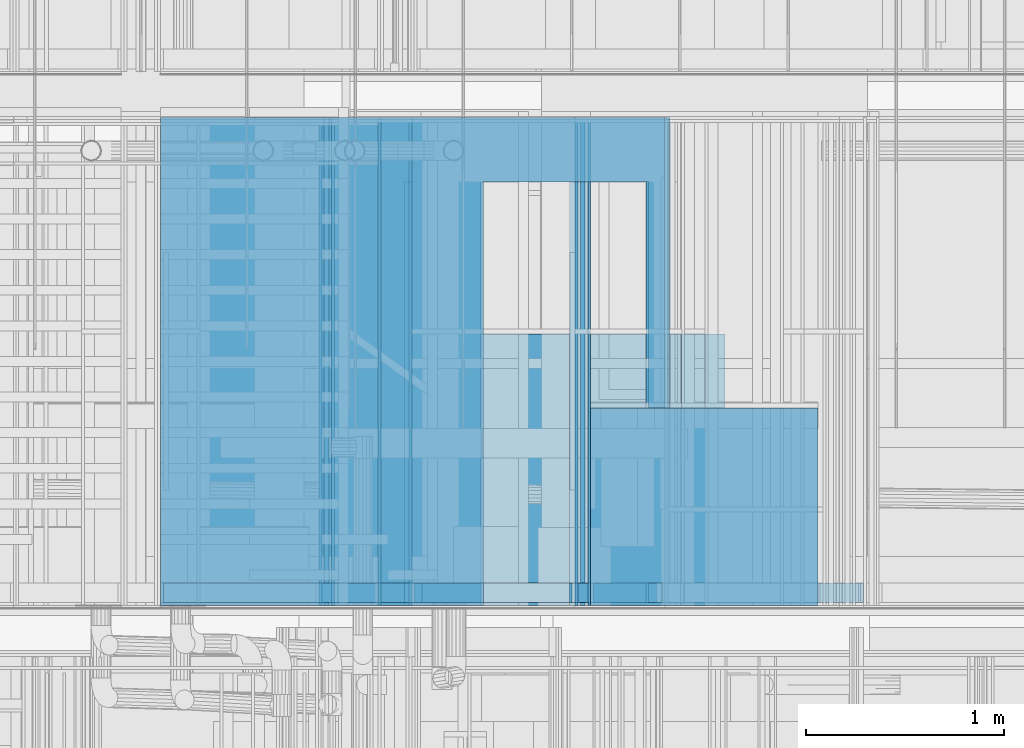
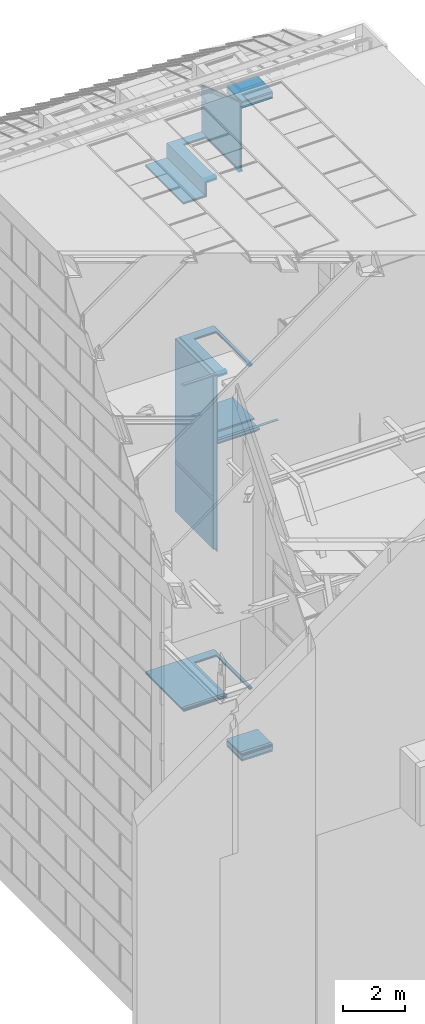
# One storey, part 158 of 583: 46 building element parts, 3 openings, 12 elements without a shape of their own.
"""IFC2X3 building model written with IfcOpenShell, lengths in metres."""

from ifc_helpers import new_model, entity, si_unit, converted_unit, derived_unit, money_unit, direction, frame, frame_2d, origin_with_axes, place, context, subcontext, project, spatial, polyline, rectangle, outline, extrude, clip, halfspace, material, type_object, element, aggregate, save


model = new_model("IFC2X3")

# Units and contexts
model_context = context("Model", 3, precision=1e-05, world=origin_with_axes(), true_north=direction((0.0, 1.0)))
body_context = subcontext(model_context, "Body", "Model", "MODEL_VIEW", scale=1.0)
ifc_project = project(units=[si_unit("LENGTHUNIT", "METRE"), si_unit("AREAUNIT", "SQUARE_METRE"), si_unit("VOLUMEUNIT", "CUBIC_METRE"), si_unit("ABSORBEDDOSEUNIT", "GRAY"), si_unit("AMOUNTOFSUBSTANCEUNIT", "MOLE"), si_unit("DOSEEQUIVALENTUNIT", "SIEVERT"), si_unit("ELECTRICCAPACITANCEUNIT", "FARAD"), si_unit("ELECTRICCHARGEUNIT", "COULOMB"), si_unit("ELECTRICCONDUCTANCEUNIT", "SIEMENS"), si_unit("ELECTRICCURRENTUNIT", "AMPERE"), si_unit("ELECTRICRESISTANCEUNIT", "OHM"), si_unit("ELECTRICVOLTAGEUNIT", "VOLT"), si_unit("ENERGYUNIT", "JOULE"), si_unit("FORCEUNIT", "NEWTON"), si_unit("FREQUENCYUNIT", "HERTZ"), si_unit("ILLUMINANCEUNIT", "LUX"), si_unit("INDUCTANCEUNIT", "HENRY"), si_unit("LUMINOUSFLUXUNIT", "LUMEN"), si_unit("LUMINOUSINTENSITYUNIT", "CANDELA"), si_unit("MAGNETICFLUXDENSITYUNIT", "TESLA"), si_unit("MAGNETICFLUXUNIT", "WEBER"), si_unit("MASSUNIT", "GRAM"), converted_unit("PLANEANGLEUNIT", "degree", entity("IfcReal", 0.0174532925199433), si_unit("PLANEANGLEUNIT", "RADIAN"), dimensions=[0, 0, 0, 0, 0, 0, 0]), si_unit("POWERUNIT", "WATT"), si_unit("PRESSUREUNIT", "PASCAL"), si_unit("RADIOACTIVITYUNIT", "BECQUEREL"), si_unit("SOLIDANGLEUNIT", "STERADIAN"), si_unit("THERMODYNAMICTEMPERATUREUNIT", "KELVIN"), si_unit("TIMEUNIT", "SECOND"), derived_unit("ACCELERATIONUNIT", [(si_unit("LENGTHUNIT", "METRE"), 1), (si_unit("TIMEUNIT", "SECOND"), -2)]), derived_unit("ANGULARVELOCITYUNIT", [(converted_unit("PLANEANGLEUNIT", "degree", entity("IfcReal", 0.0174532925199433), si_unit("PLANEANGLEUNIT", "RADIAN"), dimensions=[0, 0, 0, 0, 0, 0, 0]), 1), (si_unit("TIMEUNIT", "SECOND"), -1)]), derived_unit("CURVATUREUNIT", [(converted_unit("PLANEANGLEUNIT", "degree", entity("IfcReal", 0.0174532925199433), si_unit("PLANEANGLEUNIT", "RADIAN"), dimensions=[0, 0, 0, 0, 0, 0, 0]), 1), (si_unit("LENGTHUNIT", "METRE"), -1)]), derived_unit("DYNAMICVISCOSITYUNIT", [(si_unit("PRESSUREUNIT", "PASCAL"), 1), (si_unit("TIMEUNIT", "SECOND"), 1)]), derived_unit("HEATFLUXDENSITYUNIT", [(si_unit("POWERUNIT", "WATT"), 1), (si_unit("LENGTHUNIT", "METRE"), -2)]), derived_unit("HEATINGVALUEUNIT", [(si_unit("ENERGYUNIT", "JOULE"), 1), (si_unit("MASSUNIT", "GRAM"), -1)]), derived_unit("INTEGERCOUNTRATEUNIT", [(si_unit("TIMEUNIT", "SECOND"), -1)]), derived_unit("IONCONCENTRATIONUNIT", [(si_unit("MASSUNIT", "GRAM"), 1), (si_unit("VOLUMEUNIT", "CUBIC_METRE"), -1)]), derived_unit("ISOTHERMALMOISTURECAPACITYUNIT", [(si_unit("VOLUMEUNIT", "CUBIC_METRE"), 1), (si_unit("MASSUNIT", "GRAM"), -1)]), derived_unit("KINEMATICVISCOSITYUNIT", [(si_unit("AREAUNIT", "SQUARE_METRE"), 1), (si_unit("TIMEUNIT", "SECOND"), -1)]), derived_unit("LINEARFORCEUNIT", [(si_unit("FORCEUNIT", "NEWTON"), 1), (si_unit("LENGTHUNIT", "METRE"), -1)]), derived_unit("LINEARMOMENTUNIT", [(si_unit("FORCEUNIT", "NEWTON"), 1), (si_unit("LENGTHUNIT", "METRE"), -1)]), derived_unit("LINEARSTIFFNESSUNIT", [(si_unit("FORCEUNIT", "NEWTON"), 1), (si_unit("LENGTHUNIT", "METRE"), -1)]), derived_unit("LINEARVELOCITYUNIT", [(si_unit("LENGTHUNIT", "METRE"), 1), (si_unit("TIMEUNIT", "SECOND"), -1)]), derived_unit("LUMINOUSINTENSITYDISTRIBUTIONUNIT", [(si_unit("LUMINOUSINTENSITYUNIT", "CANDELA"), 1), (si_unit("LUMINOUSFLUXUNIT", "LUMEN"), -1)]), derived_unit("MASSDENSITYUNIT", [(si_unit("MASSUNIT", "GRAM"), 1), (si_unit("VOLUMEUNIT", "CUBIC_METRE"), -1)]), derived_unit("MASSFLOWRATEUNIT", [(si_unit("MASSUNIT", "GRAM"), 1), (si_unit("TIMEUNIT", "SECOND"), -1)]), derived_unit("MASSPERLENGTHUNIT", [(si_unit("MASSUNIT", "GRAM"), 1), (si_unit("LENGTHUNIT", "METRE"), -1)]), derived_unit("MODULUSOFELASTICITYUNIT", [(si_unit("FORCEUNIT", "NEWTON"), 1), (si_unit("AREAUNIT", "SQUARE_METRE"), -1)]), derived_unit("MODULUSOFLINEARSUBGRADEREACTIONUNIT", [(si_unit("FORCEUNIT", "NEWTON"), 1), (si_unit("LENGTHUNIT", "METRE"), -2)]), derived_unit("MODULUSOFROTATIONALSUBGRADEREACTIONUNIT", [(si_unit("FORCEUNIT", "NEWTON"), 1), (si_unit("LENGTHUNIT", "METRE"), 1)]), derived_unit("MODULUSOFSUBGRADEREACTIONUNIT", [(si_unit("FORCEUNIT", "NEWTON"), 1), (si_unit("VOLUMEUNIT", "CUBIC_METRE"), -1)]), derived_unit("MOISTUREDIFFUSIVITYUNIT", [(si_unit("VOLUMEUNIT", "CUBIC_METRE"), 1), (si_unit("TIMEUNIT", "SECOND"), -1)]), derived_unit("MOLECULARWEIGHTUNIT", [(si_unit("MASSUNIT", "GRAM"), 1), (si_unit("AMOUNTOFSUBSTANCEUNIT", "MOLE"), -1)]), derived_unit("PLANARFORCEUNIT", [(si_unit("FORCEUNIT", "NEWTON"), 1), (si_unit("LENGTHUNIT", "METRE"), -2)]), derived_unit("ROTATIONALFREQUENCYUNIT", [(si_unit("TIMEUNIT", "SECOND"), -1)]), derived_unit("ROTATIONALMASSUNIT", [(si_unit("MASSUNIT", "GRAM"), 1), (si_unit("LENGTHUNIT", "METRE"), 2)]), derived_unit("ROTATIONALSTIFFNESSUNIT", [(si_unit("FORCEUNIT", "NEWTON"), 1), (si_unit("LENGTHUNIT", "METRE"), 1), (converted_unit("PLANEANGLEUNIT", "degree", entity("IfcReal", 0.0174532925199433), si_unit("PLANEANGLEUNIT", "RADIAN"), dimensions=[0, 0, 0, 0, 0, 0, 0]), -1)]), derived_unit("SECTIONAREAINTEGRALUNIT", [(si_unit("LENGTHUNIT", "METRE"), 5)]), derived_unit("SECTIONMODULUSUNIT", [(si_unit("LENGTHUNIT", "METRE"), 3)]), derived_unit("SHEARMODULUSUNIT", [(si_unit("FORCEUNIT", "NEWTON"), 1), (si_unit("AREAUNIT", "SQUARE_METRE"), -1)]), derived_unit("SOUNDPOWERUNIT", [(si_unit("ENERGYUNIT", "JOULE"), 1), (si_unit("TIMEUNIT", "SECOND"), -1)]), derived_unit("SPECIFICHEATCAPACITYUNIT", [(si_unit("FORCEUNIT", "NEWTON"), 1), (si_unit("MASSUNIT", "GRAM"), -1), (si_unit("THERMODYNAMICTEMPERATUREUNIT", "KELVIN"), -1)]), derived_unit("TEMPERATUREGRADIENTUNIT", [(si_unit("THERMODYNAMICTEMPERATUREUNIT", "KELVIN"), 1), (si_unit("LENGTHUNIT", "METRE"), -1)]), derived_unit("THERMALADMITTANCEUNIT", [(si_unit("POWERUNIT", "WATT"), 1), (si_unit("AREAUNIT", "SQUARE_METRE"), -1), (si_unit("THERMODYNAMICTEMPERATUREUNIT", "KELVIN"), -1)]), derived_unit("THERMALCONDUCTANCEUNIT", [(si_unit("POWERUNIT", "WATT"), 1), (si_unit("LENGTHUNIT", "METRE"), -1), (si_unit("THERMODYNAMICTEMPERATUREUNIT", "KELVIN"), -1)]), derived_unit("THERMALEXPANSIONCOEFFICIENTUNIT", [(si_unit("THERMODYNAMICTEMPERATUREUNIT", "KELVIN"), -1)]), derived_unit("THERMALRESISTANCEUNIT", [(si_unit("AREAUNIT", "SQUARE_METRE"), 1), (si_unit("POWERUNIT", "WATT"), -1)]), derived_unit("THERMALTRANSMITTANCEUNIT", [(si_unit("POWERUNIT", "WATT"), 1), (si_unit("AREAUNIT", "SQUARE_METRE"), -1), (si_unit("THERMODYNAMICTEMPERATUREUNIT", "KELVIN"), -1)]), derived_unit("TORQUEUNIT", [(si_unit("FORCEUNIT", "NEWTON"), 1), (si_unit("LENGTHUNIT", "METRE"), 1)]), derived_unit("VAPORPERMEABILITYUNIT", [(si_unit("MASSUNIT", "GRAM"), 1), (si_unit("TIMEUNIT", "SECOND"), -1)]), derived_unit("VOLUMETRICFLOWRATEUNIT", [(si_unit("VOLUMEUNIT", "CUBIC_METRE"), 1), (si_unit("TIMEUNIT", "SECOND"), -1)]), derived_unit("WARPINGCONSTANTUNIT", [(si_unit("LENGTHUNIT", "METRE"), 6)]), derived_unit("WARPINGMOMENTUNIT", [(si_unit("FORCEUNIT", "NEWTON"), 1), (si_unit("LENGTHUNIT", "METRE"), 2)]), money_unit("GBP")], contexts=[model_context])

# Site, building, storey
site_placement = place(None, origin_with_axes())
site = spatial("IfcSite", under=ifc_project, at=site_placement, Name="Site", CompositionType="ELEMENT")
building_placement = place(site_placement, origin_with_axes())
building = spatial("IfcBuilding", under=site, at=building_placement, Name="Building01", CompositionType="ELEMENT")
storey_placement = place(building_placement, frame((0.0, 0.0, 20.78), z_axis=(0.0, 0.0, 1.0), x_axis=(1.0, 0.0, 0.0)))
storey = spatial("IfcBuildingStorey", under=building, at=storey_placement, Name="RL", CompositionType="ELEMENT", Elevation=20.78)

# Wall, building element parts
wall_type_1 = type_object("IfcWallType", Name="SHE_A-Walls_Type05b_Partition_80mm", PredefinedType="NOTDEFINED")
wall_1_placement = place(storey_placement, frame((9.672024, 14.98, 3.023), z_axis=(0.0, 1.0, 0.0), x_axis=(0.0, 0.0, 1.0)))
wall_1 = element("IfcWall", 1, at=wall_1_placement, inside=storey, type_object=wall_type_1, Name="5B", ObjectType="SHE_A-Walls_Type05b_Partition_80mm")
ifc_material_1 = material(Name="A_BSUK_Insulation")
placement_1 = place(wall_1_placement, origin_with_axes())
building_element_part_1 = element("IfcBuildingElementPart", 2, at=placement_1, material=ifc_material_1, Name="1", context=body_context, shape_type="Clipping", body=[
    clip(extrude(rectangle(XDim=2.653143, YDim=0.025, at=frame_2d((1.326572, 0.0125), x_axis=(-1.0, 0.0))), origin_with_axes(), (0.0, 0.0, 1.0), 2.468), halfspace(frame((2.399791, 0.0, 0.779739), z_axis=(-0.95105652, 0.0, -0.30901699), x_axis=(0.0, -1.0, 0.0)), True)),
])
ifc_material_2 = material(Name="A_BSUK_WallInternal_Finishes_Plasterboard")
building_element_part_2 = element("IfcBuildingElementPart", 3, at=placement_1, material=ifc_material_2, Name="3", context=body_context, shape_type="Clipping", body=[
    clip(extrude(outline(polyline([(2.653143, 0.053), (-0.053, 0.053), (-0.038, 0.038), (2.653143, 0.038), (2.653143, 0.053)])), origin_with_axes(), (0.0, 0.0, 1.0), 2.468), halfspace(frame((2.399791, 0.0, 0.779739), z_axis=(-0.95105652, 0.0, -0.30901699), x_axis=(0.0, -1.0, 0.0)), True)),
])
building_element_part_3 = element("IfcBuildingElementPart", 4, at=placement_1, material=ifc_material_2, Name="4", context=body_context, shape_type="Clipping", body=[
    clip(extrude(outline(polyline([(2.663658, -0.012), (0.012, -0.012), (0.027, -0.027), (2.663658, -0.027), (2.663658, -0.012)])), origin_with_axes(), (0.0, 0.0, 1.0), 2.468), halfspace(frame((2.409301, 0.0, 0.782829), z_axis=(-0.95105652, 0.0, -0.30901699), x_axis=(0.0, -1.0, 0.0)), True)),
])
aggregate(wall_1, [building_element_part_1, building_element_part_2, building_element_part_3])

# Wall, opening, building element parts
wall_2_placement = place(storey_placement, frame((7.550061, 14.98, -17.508), z_axis=(0.0, 1.0, 0.0), x_axis=(1.0, 0.0, 0.0)))
wall_2 = element("IfcWall", 5, at=wall_2_placement, inside=storey, type_object=wall_type_1, Name="5B", ObjectType="SHE_A-Walls_Type05b_Partition_80mm")
opening_1_placement = place(wall_2_placement, frame((1.632879, 0.052, 0.0), z_axis=(0.0, 0.0, 1.0), x_axis=(1.0, 0.0, 0.0)))
element("IfcOpeningElement", 6, at=opening_1_placement, cuts=wall_2, Name="Opening", ObjectType="Opening", context=body_context, shape_type="SweptSolid", body=[
    extrude(rectangle(XDim=2.142, YDim=0.834, at=frame_2d((-0.417, 1.071), x_axis=(0.0, -1.0))), frame((0.0, -3.925325, 0.0), z_axis=(0.0, 1.0, 0.0), x_axis=(-1.0, 0.0, 0.0)), (0.0, 0.0, 1.0), 7.850651),
])
placement_2 = place(wall_2_placement, origin_with_axes())
building_element_part_4 = element("IfcBuildingElementPart", 7, at=placement_2, material=ifc_material_1, Name="1", context=body_context, shape_type="SweptSolid", body=[
    extrude(rectangle(XDim=2.576879, YDim=0.025, at=frame_2d((1.288439, 0.0125), x_axis=(-1.0, 0.0))), origin_with_axes(), (0.0, 0.0, 1.0), 2.468),
])
ifc_material_3 = material(Name="A_BSUK_Walls_Timber")
building_element_part_5 = element("IfcBuildingElementPart", 8, at=placement_2, material=ifc_material_3, Name="2", context=body_context, shape_type="SweptSolid", body=[
    extrude(rectangle(XDim=2.534879, YDim=0.015, at=frame_2d((1.267439, -0.0355), x_axis=(-1.0, 0.0))), frame((0.0, 0.0, 0.015), z_axis=(0.0, 0.0, 1.0), x_axis=(1.0, 0.0, 0.0)), (0.0, 0.0, 1.0), 0.1),
])
building_element_part_6 = element("IfcBuildingElementPart", 9, at=placement_2, material=ifc_material_2, Name="3", context=body_context, shape_type="SweptSolid", body=[
    extrude(rectangle(XDim=2.549879, YDim=0.015, at=frame_2d((1.274939, -0.0205), x_axis=(-1.0, 0.0))), origin_with_axes(), (0.0, 0.0, 1.0), 2.468),
])
building_element_part_7 = element("IfcBuildingElementPart", 10, at=placement_2, material=ifc_material_2, Name="4", context=body_context, shape_type="SweptSolid", body=[
    extrude(rectangle(XDim=2.549879, YDim=0.015, at=frame_2d((1.274939, 0.0445), x_axis=(-1.0, 0.0))), origin_with_axes(), (0.0, 0.0, 1.0), 2.468),
])
building_element_part_8 = element("IfcBuildingElementPart", 11, at=placement_2, material=ifc_material_3, Name="5", context=body_context, shape_type="SweptSolid", body=[
    extrude(rectangle(XDim=2.519879, YDim=0.015, at=frame_2d((1.274939, 0.0595), x_axis=(-1.0, 0.0))), frame((0.0, 0.0, 0.015), z_axis=(0.0, 0.0, 1.0), x_axis=(1.0, 0.0, 0.0)), (0.0, 0.0, 1.0), 0.1),
])
aggregate(wall_2, [building_element_part_4, building_element_part_5, building_element_part_6, building_element_part_7, building_element_part_8])

wall_3_placement = place(storey_placement, frame((8.401915, 14.98, 3.023), z_axis=(0.0, 1.0, 0.0), x_axis=(1.0, 0.0, 0.0)))
wall_3 = element("IfcWall", 12, at=wall_3_placement, inside=storey, type_object=wall_type_1, Name="5B", ObjectType="SHE_A-Walls_Type05b_Partition_80mm")
opening_2_placement = place(wall_3_placement, frame((0.382109, 0.053, 0.0), z_axis=(0.0, 0.0, 1.0), x_axis=(1.0, 0.0, 0.0)))
element("IfcOpeningElement", 13, at=opening_2_placement, cuts=wall_3, Name="Opening", ObjectType="Opening", context=body_context, shape_type="SweptSolid", body=[
    extrude(rectangle(XDim=2.142, YDim=0.834, at=frame_2d((-0.417, 1.071), x_axis=(0.0, -1.0))), frame((0.0, -3.598852, 0.0), z_axis=(0.0, 1.0, 0.0), x_axis=(-1.0, 0.0, 0.0)), (0.0, 0.0, 1.0), 7.197703),
])
placement_3 = place(wall_3_placement, origin_with_axes())
building_element_part_9 = element("IfcBuildingElementPart", 14, at=placement_3, material=ifc_material_1, Name="1", context=body_context, shape_type="SweptSolid", body=[
    extrude(rectangle(XDim=1.295109, YDim=0.025, at=frame_2d((0.647555, 0.0125), x_axis=(-1.0, 0.0))), origin_with_axes(), (0.0, 0.0, 1.0), 2.468),
])
building_element_part_10 = element("IfcBuildingElementPart", 15, at=placement_3, material=ifc_material_3, Name="2", context=body_context, shape_type="SweptSolid", body=[
    extrude(outline(polyline([(1.338109, 0.068), (0.043, 0.068), (0.028, 0.053), (1.323109, 0.053), (1.338109, 0.068)])), frame((0.0, 0.0, 0.015), z_axis=(0.0, 0.0, 1.0), x_axis=(1.0, 0.0, 0.0)), (0.0, 0.0, 1.0), 0.1),
])
building_element_part_11 = element("IfcBuildingElementPart", 16, at=placement_3, material=ifc_material_2, Name="3", context=body_context, shape_type="SweptSolid", body=[
    extrude(outline(polyline([(1.323109, 0.053), (0.028, 0.053), (0.013, 0.038), (1.308109, 0.038), (1.323109, 0.053)])), origin_with_axes(), (0.0, 0.0, 1.0), 2.468),
])
building_element_part_12 = element("IfcBuildingElementPart", 17, at=placement_3, material=ifc_material_2, Name="4", context=body_context, shape_type="SweptSolid", body=[
    extrude(outline(polyline([(1.258109, -0.012), (-0.037, -0.012), (-0.052, -0.027), (1.243109, -0.027), (1.258109, -0.012)])), origin_with_axes(), (0.0, 0.0, 1.0), 2.468),
])
building_element_part_13 = element("IfcBuildingElementPart", 18, at=placement_3, material=ifc_material_3, Name="5", context=body_context, shape_type="SweptSolid", body=[
    extrude(outline(polyline([(1.243109, -0.027), (-0.052, -0.027), (-0.067, -0.042), (1.228109, -0.042), (1.243109, -0.027)])), frame((0.0, 0.0, 0.015), z_axis=(0.0, 0.0, 1.0), x_axis=(1.0, 0.0, 0.0)), (0.0, 0.0, 1.0), 0.1),
])
aggregate(wall_3, [building_element_part_9, building_element_part_10, building_element_part_11, building_element_part_12, building_element_part_13])

# Wall, building element parts
wall_4_placement = place(storey_placement, frame((8.401915, 14.98, 2.426821), z_axis=(0.0, 1.0, 0.0), x_axis=(0.0, 0.0, 1.0)))
wall_4 = element("IfcWall", 19, at=wall_4_placement, inside=storey, type_object=wall_type_1, Name="5B", ObjectType="SHE_A-Walls_Type05b_Partition_80mm")
placement_4 = place(wall_4_placement, origin_with_axes())
building_element_part_14 = element("IfcBuildingElementPart", 20, at=placement_4, material=ifc_material_1, Name="1", context=body_context, shape_type="SweptSolid", body=[
    extrude(outline(polyline([(0.596179, 0.0), (0.0, 0.0), (0.025, -0.025), (0.596179, -0.025), (0.596179, 0.0)])), origin_with_axes(), (0.0, 0.0, 1.0), 2.468),
])
building_element_part_15 = element("IfcBuildingElementPart", 21, at=placement_4, material=ifc_material_2, Name="3", context=body_context, shape_type="SweptSolid", body=[
    extrude(outline(polyline([(0.543179, 0.028), (-0.028, 0.028), (-0.013, 0.013), (0.558179, 0.013), (0.543179, 0.028)])), origin_with_axes(), (0.0, 0.0, 1.0), 2.468),
])
building_element_part_16 = element("IfcBuildingElementPart", 22, at=placement_4, material=ifc_material_2, Name="4", context=body_context, shape_type="SweptSolid", body=[
    extrude(outline(polyline([(0.608179, -0.037), (0.037, -0.037), (0.052, -0.052), (0.623179, -0.052), (0.608179, -0.037)])), origin_with_axes(), (0.0, 0.0, 1.0), 2.468),
])
aggregate(wall_4, [building_element_part_14, building_element_part_15, building_element_part_16])

wall_type_2 = type_object("IfcWallType", Name="SHE_A-Walls_Type06e_ExternalWallPenthouse_280mm", PredefinedType="NOTDEFINED")
wall_5_placement = place(storey_placement, frame((10.874915, 14.98, 5.635061), z_axis=(0.0, 1.0, 0.0), x_axis=(-1.0, 0.0, 0.0)))
wall_5 = element("IfcWall", 23, at=wall_5_placement, inside=storey, type_object=wall_type_2, Name="6E", ObjectType="SHE_A-Walls_Type06e_ExternalWallPenthouse_280mm")
placement_5 = place(wall_5_placement, origin_with_axes())
building_element_part_17 = element("IfcBuildingElementPart", 24, at=placement_5, material=ifc_material_1, Name="1", context=body_context, shape_type="SweptSolid", body=[
    extrude(rectangle(XDim=1.149951, YDim=0.14, at=frame_2d((0.574976, -0.07), x_axis=(-1.0, 0.0))), origin_with_axes(), (0.0, 0.0, 1.0), 1.0),
])
building_element_part_18 = element("IfcBuildingElementPart", 25, at=placement_5, material=ifc_material_1, Name="2", context=body_context, shape_type="SweptSolid", body=[
    extrude(rectangle(XDim=1.149951, YDim=0.04, at=frame_2d((0.574976, -0.185), x_axis=(-1.0, 0.0))), origin_with_axes(), (0.0, 0.0, 1.0), 1.0),
])
building_element_part_19 = element("IfcBuildingElementPart", 26, at=placement_5, material=ifc_material_3, Name="3", context=body_context, shape_type="SweptSolid", body=[
    extrude(rectangle(XDim=1.149951, YDim=0.015, at=frame_2d((0.574976, -0.2225), x_axis=(-1.0, 0.0))), frame((0.0, 0.0, 0.015), z_axis=(0.0, 0.0, 1.0), x_axis=(1.0, 0.0, 0.0)), (0.0, 0.0, 1.0), 0.1),
])
building_element_part_20 = element("IfcBuildingElementPart", 27, at=placement_5, material=ifc_material_2, Name="4", context=body_context, shape_type="SweptSolid", body=[
    extrude(rectangle(XDim=1.149951, YDim=0.01, at=frame_2d((0.574976, -0.21), x_axis=(-1.0, 0.0))), origin_with_axes(), (0.0, 0.0, 1.0), 1.0),
])
building_element_part_21 = element("IfcBuildingElementPart", 28, at=placement_5, material=ifc_material_3, Name="5", context=body_context, shape_type="SweptSolid", body=[
    extrude(rectangle(XDim=1.149951, YDim=0.01, at=frame_2d((0.574976, 0.005), x_axis=(-1.0, 0.0))), origin_with_axes(), (0.0, 0.0, 1.0), 1.0),
])
ifc_material_4 = material(Name="A_BSUK_WallInternal_Finishes_Metal")
building_element_part_22 = element("IfcBuildingElementPart", 29, at=placement_5, material=ifc_material_4, Name="6", context=body_context, shape_type="SweptSolid", body=[
    extrude(rectangle(XDim=1.149951, YDim=0.005, at=frame_2d((0.574976, 0.0625), x_axis=(-1.0, 0.0))), origin_with_axes(), (0.0, 0.0, 1.0), 1.0),
])
aggregate(wall_5, [building_element_part_17, building_element_part_18, building_element_part_19, building_element_part_20, building_element_part_21, building_element_part_22])

wall_6_placement = place(storey_placement, frame((10.874915, 14.98, -20.215061), z_axis=(0.0, 1.0, 0.0), x_axis=(1.0, 0.0, 0.0)))
wall_6 = element("IfcWall", 30, at=wall_6_placement, inside=storey, type_object=wall_type_2, Name="6E", ObjectType="SHE_A-Walls_Type06e_ExternalWallPenthouse_280mm")
placement_6 = place(wall_6_placement, origin_with_axes())
building_element_part_23 = element("IfcBuildingElementPart", 31, at=placement_6, material=ifc_material_1, Name="1", context=body_context, shape_type="SweptSolid", body=[
    extrude(rectangle(XDim=1.149951, YDim=0.14, at=frame_2d((-0.574976, -0.07), x_axis=(1.0, 0.0))), origin_with_axes(), (0.0, 0.0, 1.0), 1.0),
])
building_element_part_24 = element("IfcBuildingElementPart", 32, at=placement_6, material=ifc_material_1, Name="2", context=body_context, shape_type="SweptSolid", body=[
    extrude(rectangle(XDim=1.149951, YDim=0.04, at=frame_2d((-0.574976, -0.185), x_axis=(1.0, 0.0))), origin_with_axes(), (0.0, 0.0, 1.0), 1.0),
])
building_element_part_25 = element("IfcBuildingElementPart", 33, at=placement_6, material=ifc_material_3, Name="3", context=body_context, shape_type="SweptSolid", body=[
    extrude(rectangle(XDim=1.149951, YDim=0.015, at=frame_2d((-0.574976, -0.2225), x_axis=(1.0, 0.0))), frame((0.0, 0.0, 0.015), z_axis=(0.0, 0.0, 1.0), x_axis=(1.0, 0.0, 0.0)), (0.0, 0.0, 1.0), 0.1),
])
building_element_part_26 = element("IfcBuildingElementPart", 34, at=placement_6, material=ifc_material_2, Name="4", context=body_context, shape_type="SweptSolid", body=[
    extrude(rectangle(XDim=1.149951, YDim=0.01, at=frame_2d((-0.574976, -0.21), x_axis=(1.0, 0.0))), origin_with_axes(), (0.0, 0.0, 1.0), 1.0),
])
building_element_part_27 = element("IfcBuildingElementPart", 35, at=placement_6, material=ifc_material_3, Name="5", context=body_context, shape_type="SweptSolid", body=[
    extrude(rectangle(XDim=1.149951, YDim=0.01, at=frame_2d((-0.574976, 0.005), x_axis=(1.0, 0.0))), origin_with_axes(), (0.0, 0.0, 1.0), 1.0),
])
building_element_part_28 = element("IfcBuildingElementPart", 36, at=placement_6, material=ifc_material_4, Name="6", context=body_context, shape_type="SweptSolid", body=[
    extrude(rectangle(XDim=1.149951, YDim=0.005, at=frame_2d((-0.574976, 0.0625), x_axis=(1.0, 0.0))), origin_with_axes(), (0.0, 0.0, 1.0), 1.0),
])
aggregate(wall_6, [building_element_part_23, building_element_part_24, building_element_part_25, building_element_part_26, building_element_part_27, building_element_part_28])

wall_7_placement = place(storey_placement, frame((7.549915, 14.98, 2.426821), z_axis=(0.0, 1.0, 0.0), x_axis=(1.0, 0.0, 0.0)))
wall_7 = element("IfcWall", 37, at=wall_7_placement, inside=storey, type_object=wall_type_1, Name="5B", ObjectType="SHE_A-Walls_Type05b_Partition_80mm")
placement_7 = place(wall_7_placement, origin_with_axes())
building_element_part_29 = element("IfcBuildingElementPart", 38, at=placement_7, material=ifc_material_1, Name="1", context=body_context, shape_type="SweptSolid", body=[
    extrude(outline(polyline([(0.852, 0.0), (0.0, 0.0), (0.0, -0.025), (0.827, -0.025), (0.852, 0.0)])), origin_with_axes(), (0.0, 0.0, 1.0), 2.468),
])
building_element_part_30 = element("IfcBuildingElementPart", 39, at=placement_7, material=ifc_material_2, Name="3", context=body_context, shape_type="SweptSolid", body=[
    extrude(outline(polyline([(0.88, 0.028), (0.0, 0.028), (0.0, 0.013), (0.865, 0.013), (0.88, 0.028)])), origin_with_axes(), (0.0, 0.0, 1.0), 2.468),
])
building_element_part_31 = element("IfcBuildingElementPart", 40, at=placement_7, material=ifc_material_2, Name="4", context=body_context, shape_type="SweptSolid", body=[
    extrude(outline(polyline([(0.815, -0.037), (0.0, -0.037), (0.0, -0.052), (0.8, -0.052), (0.815, -0.037)])), origin_with_axes(), (0.0, 0.0, 1.0), 2.468),
])
aggregate(wall_7, [building_element_part_29, building_element_part_30, building_element_part_31])

# Wall, building element part
wall_type_3 = type_object("IfcWallType", Name="SHE_A-Walls_Type01d_Partywall_200mm_twin", PredefinedType="NOTDEFINED")
wall_8_placement = place(storey_placement, frame((8.82, 14.98, -7.205), z_axis=(0.0, 1.0, 0.0), x_axis=(1.0, 0.0, 0.0)))
wall_8 = element("IfcWall", 41, at=wall_8_placement, inside=storey, type_object=wall_type_3, Name="1D", ObjectType="SHE_A-Walls_Type01d_Partywall_200mm_twin")
building_element_part_32_placement = place(wall_8_placement, origin_with_axes())
building_element_part_32 = element("IfcBuildingElementPart", 42, at=building_element_part_32_placement, material=ifc_material_3, Name="2", context=body_context, shape_type="SweptSolid", body=[
    extrude(rectangle(XDim=2.244677, YDim=0.015, at=frame_2d((1.161511, 0.1325), x_axis=(-1.0, 0.0))), frame((0.0, 0.0, 0.015), z_axis=(0.0, 0.0, 1.0), x_axis=(1.0, 0.0, 0.0)), (0.0, 0.0, 1.0), 0.1),
])
aggregate(wall_8, [building_element_part_32])

# Wall, building element parts
wall_type_4 = type_object("IfcWallType", Name="SHE_A-Walls_Type05c_PreWallShell_65mm", PredefinedType="NOTDEFINED")
wall_9_placement = place(storey_placement, frame((8.82, 14.98, -7.417619), z_axis=(0.0, 1.0, 0.0), x_axis=(1.0, 0.0, 0.0)))
wall_9 = element("IfcWall", 43, at=wall_9_placement, inside=storey, type_object=wall_type_4, Name="5C", ObjectType="SHE_A-Walls_Type05c_PreWallShell_65mm")
ifc_material_5 = material(Name="A_BSUK_OpeningsClearance")
placement_8 = place(wall_9_placement, origin_with_axes())
building_element_part_33 = element("IfcBuildingElementPart", 44, at=placement_8, material=ifc_material_5, Name="1", context=body_context, shape_type="SweptSolid", body=[
    extrude(rectangle(XDim=1.583849, YDim=0.05, at=frame_2d((0.791925, 0.025), x_axis=(-1.0, 0.0))), origin_with_axes(), (0.0, 0.0, 1.0), 1.375),
])
building_element_part_34 = element("IfcBuildingElementPart", 45, at=placement_8, material=ifc_material_3, Name="2", context=body_context, shape_type="SweptSolid", body=[
    extrude(rectangle(XDim=1.443049, YDim=0.015, at=frame_2d((0.762325, 0.0575), x_axis=(-1.0, 0.0))), origin_with_axes(), (0.0, 0.0, 1.0), 1.375),
])
aggregate(wall_9, [building_element_part_33, building_element_part_34])

wall_10_placement = place(storey_placement, frame((8.82, 14.98, -6.995002), z_axis=(0.0, 1.0, 0.0), x_axis=(1.0, 0.0, 0.0)))
wall_10 = element("IfcWall", 46, at=wall_10_placement, inside=storey, type_object=wall_type_4, Name="5C", ObjectType="SHE_A-Walls_Type05c_PreWallShell_65mm")
placement_9 = place(wall_10_placement, origin_with_axes())
building_element_part_35 = element("IfcBuildingElementPart", 47, at=placement_9, material=ifc_material_5, Name="1", context=body_context, shape_type="SweptSolid", body=[
    extrude(rectangle(XDim=1.363789, YDim=0.05, at=frame_2d((0.681894, -0.025), x_axis=(-1.0, 0.0))), origin_with_axes(), (0.0, 0.0, 1.0), 1.375),
])
building_element_part_36 = element("IfcBuildingElementPart", 48, at=placement_9, material=ifc_material_3, Name="2", context=body_context, shape_type="SweptSolid", body=[
    extrude(rectangle(XDim=1.334387, YDim=0.015, at=frame_2d((0.696596, -0.0575), x_axis=(-1.0, 0.0))), origin_with_axes(), (0.0, 0.0, 1.0), 1.375),
])
aggregate(wall_10, [building_element_part_35, building_element_part_36])

# Wall, opening, building element parts
wall_11_placement = place(storey_placement, frame((8.82, 14.98, -4.76856), z_axis=(0.0, 1.0, 0.0), x_axis=(1.0, 0.0, 0.0)))
wall_11 = element("IfcWall", 49, at=wall_11_placement, inside=storey, type_object=wall_type_1, Name="5B", ObjectType="SHE_A-Walls_Type05b_Partition_80mm")
opening_3_placement = place(wall_11_placement, frame((0.349939, 0.053, 0.0), z_axis=(0.0, 0.0, 1.0), x_axis=(1.0, 0.0, 0.0)))
element("IfcOpeningElement", 50, at=opening_3_placement, cuts=wall_11, Name="Opening", ObjectType="Opening", context=body_context, shape_type="SweptSolid", body=[
    extrude(rectangle(XDim=2.142, YDim=0.834, at=frame_2d((-0.417, 1.071), x_axis=(0.0, -1.0))), frame((0.0, -3.560057, 0.0), z_axis=(0.0, 1.0, 0.0), x_axis=(-1.0, 0.0, 0.0)), (0.0, 0.0, 1.0), 7.120115),
])
placement_10 = place(wall_11_placement, origin_with_axes())
building_element_part_37 = element("IfcBuildingElementPart", 51, at=placement_10, material=ifc_material_1, Name="1", context=body_context, shape_type="SweptSolid", body=[
    extrude(rectangle(XDim=1.306939, YDim=0.025, at=frame_2d((0.65347, 0.0125), x_axis=(-1.0, 0.0))), origin_with_axes(), (0.0, 0.0, 1.0), 2.468),
])
building_element_part_38 = element("IfcBuildingElementPart", 52, at=placement_10, material=ifc_material_3, Name="2", context=body_context, shape_type="SweptSolid", body=[
    extrude(rectangle(XDim=1.222142, YDim=0.015, at=frame_2d((0.626071, 0.0605), x_axis=(-1.0, 0.0))), frame((0.0, 0.0, 0.015), z_axis=(0.0, 0.0, 1.0), x_axis=(1.0, 0.0, 0.0)), (0.0, 0.0, 1.0), 0.1),
])
building_element_part_39 = element("IfcBuildingElementPart", 53, at=placement_10, material=ifc_material_2, Name="3", context=body_context, shape_type="SweptSolid", body=[
    extrude(rectangle(XDim=1.294939, YDim=0.015, at=frame_2d((0.64747, 0.0455), x_axis=(-1.0, 0.0))), origin_with_axes(), (0.0, 0.0, 1.0), 2.468),
])
building_element_part_40 = element("IfcBuildingElementPart", 54, at=placement_10, material=ifc_material_2, Name="4", context=body_context, shape_type="SweptSolid", body=[
    extrude(rectangle(XDim=1.279939, YDim=0.015, at=frame_2d((0.63997, -0.0195), x_axis=(-1.0, 0.0))), origin_with_axes(), (0.0, 0.0, 1.0), 2.468),
])
building_element_part_41 = element("IfcBuildingElementPart", 55, at=placement_10, material=ifc_material_3, Name="5", context=body_context, shape_type="SweptSolid", body=[
    extrude(rectangle(XDim=1.185147, YDim=0.015, at=frame_2d((0.644569, -0.0345), x_axis=(-1.0, 0.0))), frame((0.0, 0.0, 0.015), z_axis=(0.0, 0.0, 1.0), x_axis=(1.0, 0.0, 0.0)), (0.0, 0.0, 1.0), 0.1),
])
building_element_part_42 = element("IfcBuildingElementPart", 56, at=placement_10, material=ifc_material_3, Name="6", context=body_context, shape_type="SweptSolid", body=[
    extrude(rectangle(XDim=2.535024, YDim=0.015, at=frame_2d((-0.002573, -0.0345), x_axis=(-1.0, 0.0))), frame((0.0, 0.0, 0.015), z_axis=(0.0, 0.0, 1.0), x_axis=(1.0, 0.0, 0.0)), (0.0, 0.0, 1.0), 0.1),
])
aggregate(wall_11, [building_element_part_37, building_element_part_38, building_element_part_39, building_element_part_40, building_element_part_41, building_element_part_42])

# Wall, building element parts
wall_type_5 = type_object("IfcWallType", Name="SHE_A-Walls_Type03a_BlockworkWall_170mm", PredefinedType="NOTDEFINED")
wall_12_placement = place(storey_placement, frame((8.665, 14.98, -11.565), z_axis=(0.0, 1.0, 0.0), x_axis=(0.0, 0.0, 1.0)))
wall_12 = element("IfcWall", 57, at=wall_12_placement, inside=storey, type_object=wall_type_5, Name="4B", ObjectType="SHE_A-Walls_Type03a_BlockworkWall_170mm")
ifc_material_6 = material(Name="A_BSUK_WallsInternal_Block")
placement_11 = place(wall_12_placement, origin_with_axes())
building_element_part_43 = element("IfcBuildingElementPart", 58, at=placement_11, material=ifc_material_6, Name="1", context=body_context, shape_type="SweptSolid", body=[
    extrude(rectangle(XDim=0.14, YDim=6.80844, at=frame_2d((3.40422, 0.07), x_axis=(0.0, -1.0))), origin_with_axes(), (0.0, 0.0, 1.0), 2.468),
])
ifc_material_7 = material(Name="A_BSUK_WallInternal_Finishes_Plaster")
building_element_part_44 = element("IfcBuildingElementPart", 59, at=placement_11, material=ifc_material_7, Name="3", context=body_context, shape_type="SweptSolid", body=[
    extrude(rectangle(XDim=0.015, YDim=6.94844, at=frame_2d((3.33422, 0.1475), x_axis=(0.0, -1.0))), origin_with_axes(), (0.0, 0.0, 1.0), 2.468),
])
building_element_part_45 = element("IfcBuildingElementPart", 60, at=placement_11, material=ifc_material_2, Name="4", context=body_context, shape_type="SweptSolid", body=[
    extrude(rectangle(XDim=1.915, YDim=0.015, at=frame_2d((0.9725, -0.0075), x_axis=(-1.0, 0.0))), origin_with_axes(), (0.0, 0.0, 1.0), 2.468),
])
building_element_part_46 = element("IfcBuildingElementPart", 61, at=placement_11, material=ifc_material_2, Name="8", context=body_context, shape_type="SweptSolid", body=[
    extrude(rectangle(XDim=4.73844, YDim=0.015, at=frame_2d((4.43922, -0.0075), x_axis=(1.0, 0.0))), origin_with_axes(), (0.0, 0.0, 1.0), 2.468),
])
aggregate(wall_12, [building_element_part_43, building_element_part_44, building_element_part_45, building_element_part_46])

save(model, "model.ifc")
